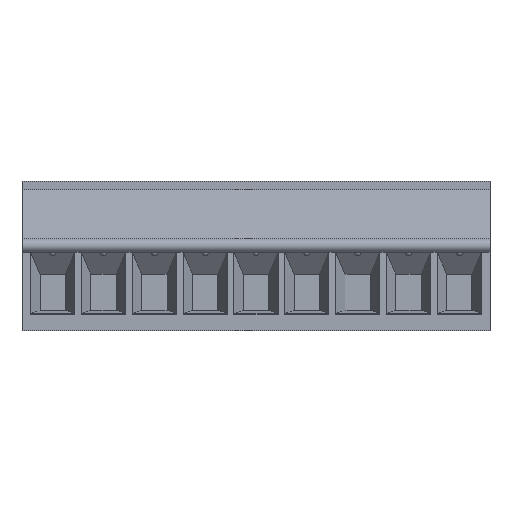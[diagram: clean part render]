
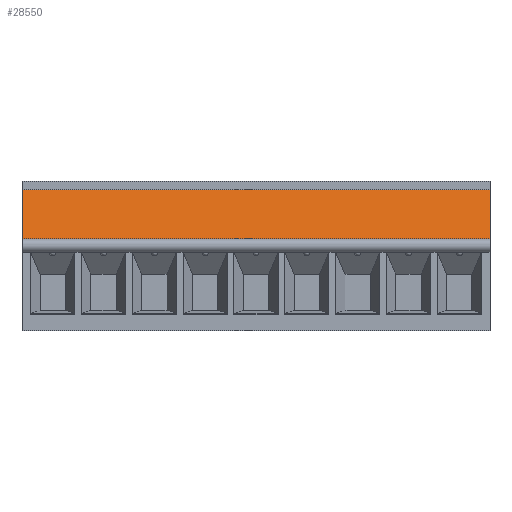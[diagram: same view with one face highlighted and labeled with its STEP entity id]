
A CAD part, top view. The second image highlights one B-rep face of the part: STEP entity #28550.
In plain terms, the highlighted planar face has unit normal (0, 0.249, 0.969).
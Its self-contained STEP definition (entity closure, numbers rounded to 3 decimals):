
#32 = PLANE('',#33);
#33 = AXIS2_PLACEMENT_3D('',#34,#35,#36);
#34 = CARTESIAN_POINT('',(0.,-29.45,2.413));
#35 = DIRECTION('',(1.,0.,0.));
#36 = DIRECTION('',(0.,0.,-1.));
#118 = VERTEX_POINT('',#119);
#119 = CARTESIAN_POINT('',(0.,0.5,-0.65));
#133 = PLANE('',#134);
#134 = AXIS2_PLACEMENT_3D('',#135,#136,#137);
#135 = CARTESIAN_POINT('',(0.,0.5,0.));
#136 = DIRECTION('',(0.,-1.,0.));
#137 = DIRECTION('',(0.,0.,-1.));
#145 = EDGE_CURVE('',#118,#146,#148,.T.);
#146 = VERTEX_POINT('',#147);
#147 = CARTESIAN_POINT('',(0.,4.2,-1.6));
#148 = SURFACE_CURVE('',#149,(#153,#160),.PCURVE_S1.);
#149 = LINE('',#150,#151);
#150 = CARTESIAN_POINT('',(0.,0.5,-0.65));
#151 = VECTOR('',#152,1.);
#152 = DIRECTION('',(0.,0.969,-0.249));
#153 = PCURVE('',#32,#154);
#154 = DEFINITIONAL_REPRESENTATION('',(#155),#159);
#155 = LINE('',#156,#157);
#156 = CARTESIAN_POINT('',(3.063,29.95));
#157 = VECTOR('',#158,1.);
#158 = DIRECTION('',(0.249,0.969));
#159 = ( GEOMETRIC_REPRESENTATION_CONTEXT(2) 
PARAMETRIC_REPRESENTATION_CONTEXT() REPRESENTATION_CONTEXT('2D SPACE',''
  ) );
#160 = PCURVE('',#161,#166);
#161 = PLANE('',#162);
#162 = AXIS2_PLACEMENT_3D('',#163,#164,#165);
#163 = CARTESIAN_POINT('',(0.,0.5,-0.65));
#164 = DIRECTION('',(0.,-0.249,-0.969));
#165 = DIRECTION('',(0.,0.969,-0.249));
#166 = DEFINITIONAL_REPRESENTATION('',(#167),#171);
#167 = LINE('',#168,#169);
#168 = CARTESIAN_POINT('',(0.,0.));
#169 = VECTOR('',#170,1.);
#170 = DIRECTION('',(1.,0.));
#171 = ( GEOMETRIC_REPRESENTATION_CONTEXT(2) 
PARAMETRIC_REPRESENTATION_CONTEXT() REPRESENTATION_CONTEXT('2D SPACE',''
  ) );
#189 = PLANE('',#190);
#190 = AXIS2_PLACEMENT_3D('',#191,#192,#193);
#191 = CARTESIAN_POINT('',(0.,4.2,-1.6));
#192 = DIRECTION('',(0.,1.,0.));
#193 = DIRECTION('',(0.,-0.,1.));
#437 = PLANE('',#438);
#438 = AXIS2_PLACEMENT_3D('',#439,#440,#441);
#439 = CARTESIAN_POINT('',(-35.08,-12.25,-10.621));
#440 = DIRECTION('',(-1.,0.,0.));
#441 = DIRECTION('',(0.,0.,1.));
#28505 = EDGE_CURVE('',#146,#28506,#28508,.T.);
#28506 = VERTEX_POINT('',#28507);
#28507 = CARTESIAN_POINT('',(-35.08,4.2,-1.6));
#28508 = SURFACE_CURVE('',#28509,(#28513,#28520),.PCURVE_S1.);
#28509 = LINE('',#28510,#28511);
#28510 = CARTESIAN_POINT('',(0.,4.2,-1.6));
#28511 = VECTOR('',#28512,1.);
#28512 = DIRECTION('',(-1.,0.,0.));
#28513 = PCURVE('',#189,#28514);
#28514 = DEFINITIONAL_REPRESENTATION('',(#28515),#28519);
#28515 = LINE('',#28516,#28517);
#28516 = CARTESIAN_POINT('',(0.,0.));
#28517 = VECTOR('',#28518,1.);
#28518 = DIRECTION('',(0.,-1.));
#28519 = ( GEOMETRIC_REPRESENTATION_CONTEXT(2) 
PARAMETRIC_REPRESENTATION_CONTEXT() REPRESENTATION_CONTEXT('2D SPACE',''
  ) );
#28520 = PCURVE('',#161,#28521);
#28521 = DEFINITIONAL_REPRESENTATION('',(#28522),#28526);
#28522 = LINE('',#28523,#28524);
#28523 = CARTESIAN_POINT('',(3.82,0.));
#28524 = VECTOR('',#28525,1.);
#28525 = DIRECTION('',(0.,-1.));
#28526 = ( GEOMETRIC_REPRESENTATION_CONTEXT(2) 
PARAMETRIC_REPRESENTATION_CONTEXT() REPRESENTATION_CONTEXT('2D SPACE',''
  ) );
#28550 = ADVANCED_FACE('',(#28551),#161,.F.);
#28551 = FACE_BOUND('',#28552,.F.);
#28552 = EDGE_LOOP('',(#28553,#28576,#28597,#28598));
#28553 = ORIENTED_EDGE('',*,*,#28554,.T.);
#28554 = EDGE_CURVE('',#118,#28555,#28557,.T.);
#28555 = VERTEX_POINT('',#28556);
#28556 = CARTESIAN_POINT('',(-35.08,0.5,-0.65));
#28557 = SURFACE_CURVE('',#28558,(#28562,#28569),.PCURVE_S1.);
#28558 = LINE('',#28559,#28560);
#28559 = CARTESIAN_POINT('',(0.,0.5,-0.65));
#28560 = VECTOR('',#28561,1.);
#28561 = DIRECTION('',(-1.,0.,0.));
#28562 = PCURVE('',#161,#28563);
#28563 = DEFINITIONAL_REPRESENTATION('',(#28564),#28568);
#28564 = LINE('',#28565,#28566);
#28565 = CARTESIAN_POINT('',(0.,0.));
#28566 = VECTOR('',#28567,1.);
#28567 = DIRECTION('',(0.,-1.));
#28568 = ( GEOMETRIC_REPRESENTATION_CONTEXT(2) 
PARAMETRIC_REPRESENTATION_CONTEXT() REPRESENTATION_CONTEXT('2D SPACE',''
  ) );
#28569 = PCURVE('',#133,#28570);
#28570 = DEFINITIONAL_REPRESENTATION('',(#28571),#28575);
#28571 = LINE('',#28572,#28573);
#28572 = CARTESIAN_POINT('',(0.65,0.));
#28573 = VECTOR('',#28574,1.);
#28574 = DIRECTION('',(0.,-1.));
#28575 = ( GEOMETRIC_REPRESENTATION_CONTEXT(2) 
PARAMETRIC_REPRESENTATION_CONTEXT() REPRESENTATION_CONTEXT('2D SPACE',''
  ) );
#28576 = ORIENTED_EDGE('',*,*,#28577,.T.);
#28577 = EDGE_CURVE('',#28555,#28506,#28578,.T.);
#28578 = SURFACE_CURVE('',#28579,(#28583,#28590),.PCURVE_S1.);
#28579 = LINE('',#28580,#28581);
#28580 = CARTESIAN_POINT('',(-35.08,0.5,-0.65));
#28581 = VECTOR('',#28582,1.);
#28582 = DIRECTION('',(0.,0.969,-0.249));
#28583 = PCURVE('',#161,#28584);
#28584 = DEFINITIONAL_REPRESENTATION('',(#28585),#28589);
#28585 = LINE('',#28586,#28587);
#28586 = CARTESIAN_POINT('',(0.,-35.08));
#28587 = VECTOR('',#28588,1.);
#28588 = DIRECTION('',(1.,0.));
#28589 = ( GEOMETRIC_REPRESENTATION_CONTEXT(2) 
PARAMETRIC_REPRESENTATION_CONTEXT() REPRESENTATION_CONTEXT('2D SPACE',''
  ) );
#28590 = PCURVE('',#437,#28591);
#28591 = DEFINITIONAL_REPRESENTATION('',(#28592),#28596);
#28592 = LINE('',#28593,#28594);
#28593 = CARTESIAN_POINT('',(9.971,12.75));
#28594 = VECTOR('',#28595,1.);
#28595 = DIRECTION('',(-0.249,0.969));
#28596 = ( GEOMETRIC_REPRESENTATION_CONTEXT(2) 
PARAMETRIC_REPRESENTATION_CONTEXT() REPRESENTATION_CONTEXT('2D SPACE',''
  ) );
#28597 = ORIENTED_EDGE('',*,*,#28505,.F.);
#28598 = ORIENTED_EDGE('',*,*,#145,.F.);
